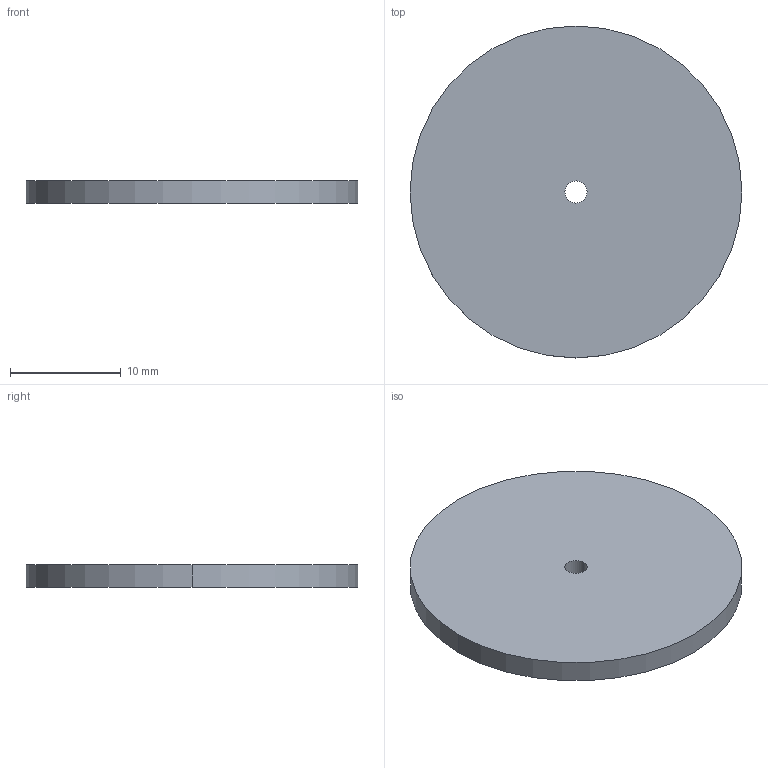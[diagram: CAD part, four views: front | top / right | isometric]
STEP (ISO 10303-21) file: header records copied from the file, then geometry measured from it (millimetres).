
FILE_DESCRIPTION (( 'STEP AP214' ), '1' );
FILE_NAME ('C23.STEP', '2016-02-27T15:16:48', ( '' ), ( '' ), 'SwSTEP 2.0', 'SolidWorks 2012', '' );
FILE_SCHEMA (( 'AUTOMOTIVE_DESIGN' ));
Length unit declared in the file: millimetre
Products named in the file (1): C23
Bounding box: 30 x 30 x 2 mm (x, y, z)
Volume: 1407.4 mm3; surface area: 1608.5 mm2
Topology: 1 solids, 1 shells, 6 faces, 12 edges, 8 vertices
Faces by surface type: cylinder 4, plane 2
Entity records: 202 total; most frequent: DIRECTION 34, CARTESIAN_POINT 27, ORIENTED_EDGE 24, AXIS2_PLACEMENT_3D 15, EDGE_CURVE 12, VERTEX_POINT 8, EDGE_LOOP 8, CIRCLE 8
